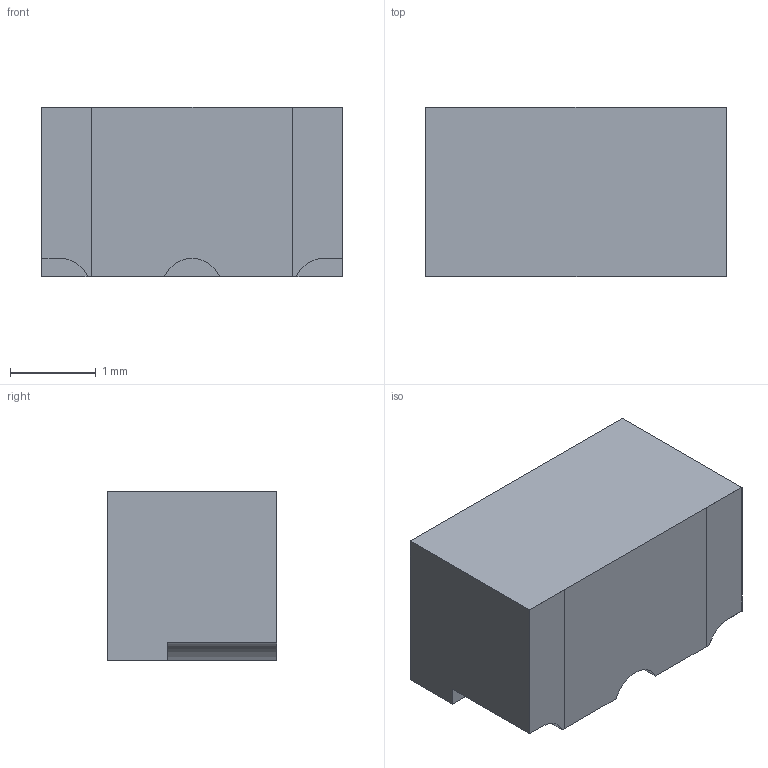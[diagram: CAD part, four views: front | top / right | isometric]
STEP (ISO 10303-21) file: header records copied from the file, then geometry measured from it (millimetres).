
FILE_DESCRIPTION (( 'STEP AP214' ), '1' );
FILE_NAME ('XPG3ADXXXX REV 0 (3D MODEL) 2.STEP', '2025-11-28T20:38:05', ( '' ), ( '' ), 'SwSTEP 2.0', 'SolidWorks 2024', '' );
FILE_SCHEMA (( 'AUTOMOTIVE_DESIGN' ));
Length unit declared in the file: inch
Products named in the file (1): XPG3ADXXXX REV 0 (3D MODEL) 2
Bounding box: 3.5 x 1.97 x 1.98 mm (x, y, z)
Volume: 13.3 mm3; surface area: 39.6 mm2
Topology: 3 solids, 3 shells, 31 faces, 75 edges, 50 vertices
Faces by surface type: plane 25, cylinder 6
Entity records: 950 total; most frequent: CARTESIAN_POINT 157, DIRECTION 151, ORIENTED_EDGE 150, EDGE_CURVE 75, LINE 63, VECTOR 63, VERTEX_POINT 50, AXIS2_PLACEMENT_3D 44
